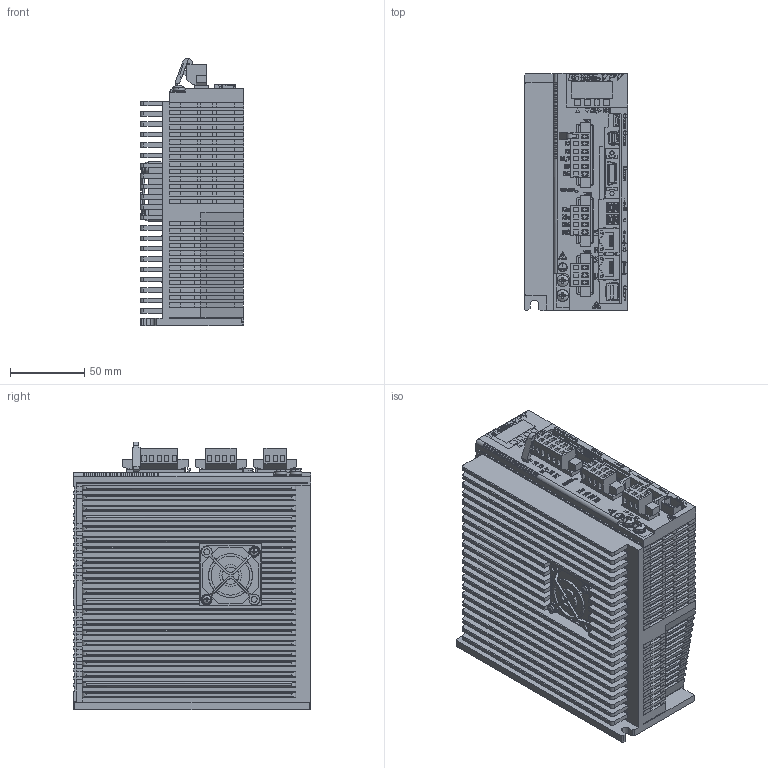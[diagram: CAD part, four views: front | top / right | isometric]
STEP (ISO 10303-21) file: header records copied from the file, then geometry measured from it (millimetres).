
FILE_DESCRIPTION (( 'STEP AP203' ), '1' );
FILE_NAME ('NCR-VD_Series(801)#SX-008590-00-01_STO.STEP', '2026-05-28T00:22:15', ( '' ), ( '' ), 'SwSTEP 2.0', 'SolidWorks 2024', '' );
FILE_SCHEMA (( 'CONFIG_CONTROL_DESIGN' ));
Products named in the file (1): NCR-VD_Series(801)#SX-008590-00-01_STO
Bounding box: 70 x 160 x 180.47 mm (x, y, z)
Volume: 1499829.3 mm3; surface area: 246060.8 mm2
Topology: 5 solids, 22 shells, 7564 faces, 21393 edges, 14145 vertices
Faces by surface type: plane 6213, cylinder 745, bspline 532, cone 46, torus 20, sphere 8
Entity records: 266429 total; most frequent: CARTESIAN_POINT 72765, ORIENTED_EDGE 42770, DIRECTION 35741, EDGE_CURVE 21385, VECTOR 18401, LINE 18401, VERTEX_POINT 14145, AXIS2_PLACEMENT_3D 8670
